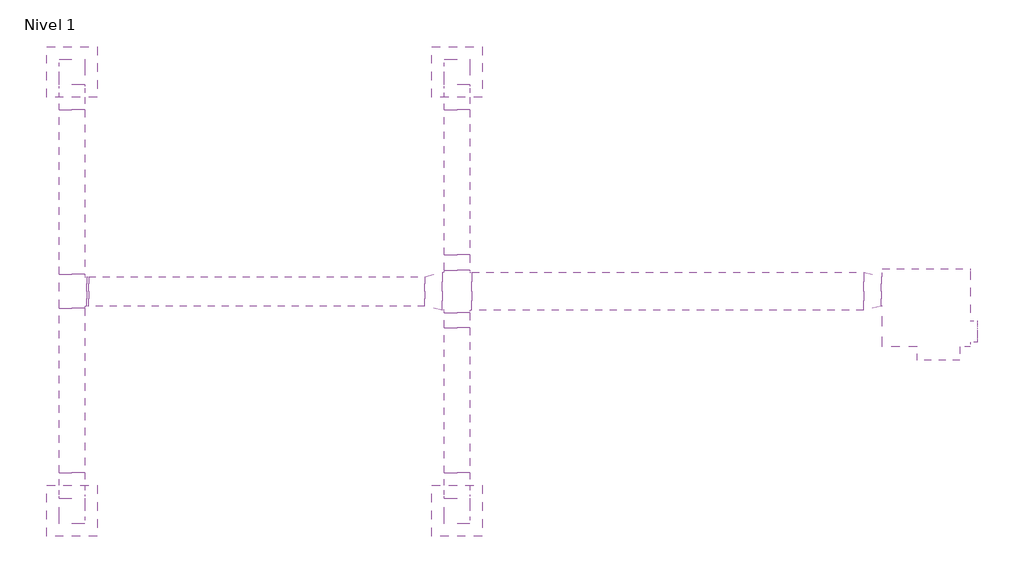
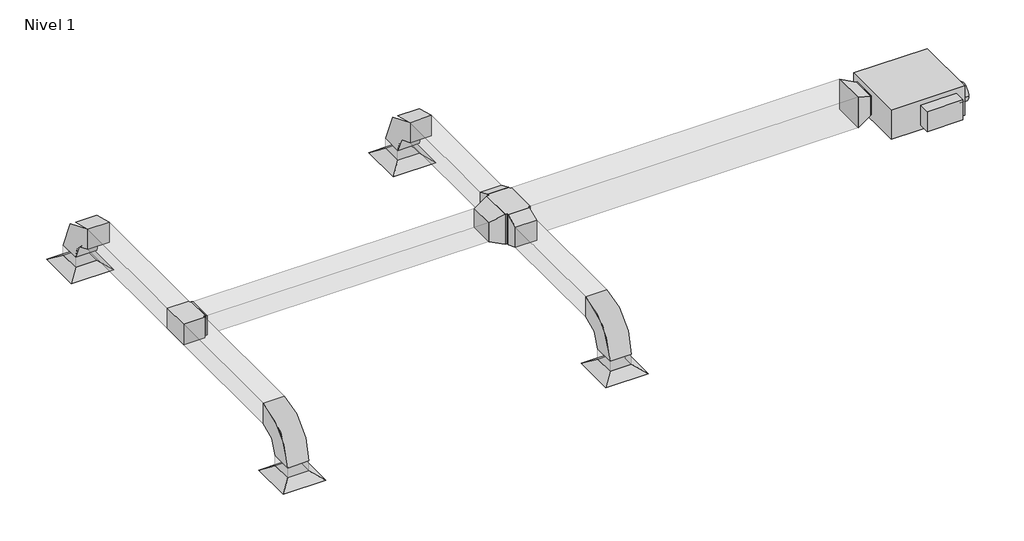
# One storey: 11 duct fittings, 10 duct segments, 4 air terminals, 1 proxy.
"""IFC4 building model written with IfcOpenShell, lengths in millimetres."""

from ifc_helpers import new_model, si_unit, frame, origin, place, context, project, spatial, polyline, outline, extrude, transform, mapped, element, save
from components import air_terminal_ff221211, mechanical_equipment_cafec42d, duct_fitting_45_grados_729889f1, duct_fitting_45_grados_29309759, duct_fitting_45_grados_e99a464d, duct_fitting_45_grados_6865c656, duct_fitting_45_grados_7da8009e, m_codo_rectangular_radio_1_5_w_7230ff9a, norma_aa79a1d3, norma_ee759ac8

model = new_model("IFC4")

# Units and contexts
model_context = context("Model", 3, world=origin())
ifc_project = project(units=[si_unit("LENGTHUNIT", "METRE", prefix="MILLI")], contexts=[model_context])

# Site, building, storey
site = spatial("IfcSite", under=ifc_project)
building = spatial("IfcBuilding", under=site)
storey = spatial("IfcBuildingStorey", under=building, Name="Nivel 1", Elevation=0.0)

# Air terminals
placement = place(None, origin())
air_terminal_shape = air_terminal_ff221211(model_context)
element("IfcAirTerminal", 1, ObjectType="M_Difusor de suministro : Cara 600 x 600 Conexión 300 x 300", at=placement, inside=storey, context=model_context, shape_type="MappedRepresentation", body=[
    mapped(air_terminal_shape, transform((-7560.60312, 5815.7791002, 3000.0), x_axis=(1.0, 0.0, 0.0), y_axis=(0.0, 1.0, 0.0), z_axis=(0.0, 0.0, 1.0))),
])
element("IfcAirTerminal", 2, ObjectType="M_Difusor de suministro : Cara 600 x 600 Conexión 300 x 300", at=placement, inside=storey, context=model_context, shape_type="MappedRepresentation", body=[
    mapped(air_terminal_shape, transform((-7560.60312, 628.1257362, 3000.0), x_axis=(1.0, 0.0, 0.0), y_axis=(0.0, 1.0, 0.0), z_axis=(0.0, 0.0, 1.0))),
])
element("IfcAirTerminal", 3, ObjectType="M_Difusor de suministro : Cara 600 x 600 Conexión 300 x 300", at=placement, inside=storey, context=model_context, shape_type="MappedRepresentation", body=[
    mapped(air_terminal_shape, transform((-3009.171395, 628.1257362, 3000.0), x_axis=(1.0, 0.0, 0.0), y_axis=(0.0, 1.0, 0.0), z_axis=(0.0, 0.0, 1.0))),
])
element("IfcAirTerminal", 4, ObjectType="M_Difusor de suministro : Cara 600 x 600 Conexión 300 x 300", at=placement, inside=storey, context=model_context, shape_type="MappedRepresentation", body=[
    mapped(air_terminal_shape, transform((-3009.171395, 5815.7791002, 3000.0), x_axis=(1.0, 0.0, 0.0), y_axis=(0.0, 1.0, 0.0), z_axis=(0.0, 0.0, 1.0))),
])

# Proxy
mechanical_equipment_shape = mechanical_equipment_cafec42d(model_context)
element("IfcBuildingElementProxy", 5, Name="M_Unidad VAV - Alimentada por ventilador paralelo : Tamaño 4 - Entrada 250 mm", ObjectType="M_Unidad VAV - Alimentada por ventilador paralelo : Tamaño 4 - Entrada 250 mm", at=placement, inside=storey, context=model_context, shape_type="MappedRepresentation", body=[
    mapped(mechanical_equipment_shape, transform((2536.8845006, 3026.9524182, 3700.0), x_axis=(-1.0, 0.0, 0.0), y_axis=(0.0, -1.0, 0.0), z_axis=(0.0, 0.0, 1.0))),
])

# Duct fittings
duct_fitting_45_grados_shape = duct_fitting_45_grados_729889f1(model_context)
element("IfcDuctFitting", 6, ObjectType="M_Transición rectangular - Ángulo : 45 grados", at=placement, inside=storey, context=model_context, shape_type="MappedRepresentation", body=[
    mapped(duct_fitting_45_grados_shape, transform((-7385.60312, 3221.9524182, 3700.0), x_axis=(1.0, 0.0, 0.0), y_axis=(0.0, 1.0, 0.0), z_axis=(0.0, 0.0, 1.0))),
])
duct_fitting_45_grados_2_shape = duct_fitting_45_grados_29309759(model_context)
element("IfcDuctFitting", 7, ObjectType="M_Transición rectangular - Ángulo : 45 grados", at=placement, inside=storey, context=model_context, shape_type="MappedRepresentation", body=[
    mapped(duct_fitting_45_grados_2_shape, transform((2001.8845006, 3221.9524182, 3700.0), x_axis=(-1.0, 0.0, 0.0), y_axis=(0.0, -1.0, 0.0), z_axis=(0.0, 0.0, 1.0))),
])
duct_fitting_45_grados_3_shape = duct_fitting_45_grados_e99a464d(model_context)
element("IfcDuctFitting", 8, ObjectType="M_Transición rectangular - Ángulo : 45 grados", at=placement, inside=storey, context=model_context, shape_type="MappedRepresentation", body=[
    mapped(duct_fitting_45_grados_3_shape, transform((-3184.171395, 3221.9524182, 3700.0), x_axis=(-1.0, 0.0, 0.0), y_axis=(0.0, -1.0, 0.0), z_axis=(0.0, 0.0, 1.0))),
])
duct_fitting_45_grados_4_shape = duct_fitting_45_grados_6865c656(model_context)
element("IfcDuctFitting", 9, ObjectType="M_Transición rectangular - Ángulo : 45 grados", at=placement, inside=storey, context=model_context, shape_type="MappedRepresentation", body=[
    mapped(duct_fitting_45_grados_4_shape, transform((-3009.171395, 2971.9524182, 3700.0), x_axis=(0.0, -1.0, 0.0), y_axis=(1.0, 0.0, 0.0), z_axis=(0.0, 0.0, 1.0))),
])
duct_fitting_45_grados_5_shape = duct_fitting_45_grados_7da8009e(model_context)
element("IfcDuctFitting", 10, ObjectType="M_Transición rectangular - Ángulo : 45 grados", at=placement, inside=storey, context=model_context, shape_type="MappedRepresentation", body=[
    mapped(duct_fitting_45_grados_5_shape, transform((-3009.171395, 3653.0184354, 3700.0), x_axis=(0.0, -1.0, 0.0), y_axis=(1.0, 0.0, 0.0), z_axis=(0.0, 0.0, 1.0))),
])
m_codo_rectangular_radio_1_5_w_shape = m_codo_rectangular_radio_1_5_w_7230ff9a(model_context)
element("IfcDuctFitting", 11, ObjectType="M_Codo rectangular - Radio : 1.5 W", at=placement, inside=storey, context=model_context, shape_type="MappedRepresentation", body=[
    mapped(m_codo_rectangular_radio_1_5_w_shape, transform((-7560.60312, 5815.7791002, 3700.0), x_axis=(0.0, 0.0, 1.0), y_axis=(0.0, -1.0, 0.0), z_axis=(1.0, 0.0, 0.0))),
])
element("IfcDuctFitting", 12, ObjectType="M_Codo rectangular - Radio : 1.5 W", at=placement, inside=storey, context=model_context, shape_type="MappedRepresentation", body=[
    mapped(m_codo_rectangular_radio_1_5_w_shape, transform((-7560.60312, 628.1257362, 3700.0), x_axis=(0.0, 0.0, 1.0), y_axis=(0.0, 1.0, 0.0), z_axis=(-1.0, 0.0, 0.0))),
])
element("IfcDuctFitting", 13, ObjectType="M_Codo rectangular - Radio : 1.5 W", at=placement, inside=storey, context=model_context, shape_type="MappedRepresentation", body=[
    mapped(m_codo_rectangular_radio_1_5_w_shape, transform((-3009.171395, 628.1257362, 3700.0), x_axis=(0.0, 0.0, 1.0), y_axis=(0.0, 1.0, 0.0), z_axis=(-1.0, 0.0, 0.0))),
])
element("IfcDuctFitting", 14, ObjectType="M_Codo rectangular - Radio : 1.5 W", at=placement, inside=storey, context=model_context, shape_type="MappedRepresentation", body=[
    mapped(m_codo_rectangular_radio_1_5_w_shape, transform((-3009.171395, 5815.7791002, 3700.0), x_axis=(0.0, 0.0, 1.0), y_axis=(0.0, -1.0, 0.0), z_axis=(1.0, 0.0, 0.0))),
])
norma_shape = norma_aa79a1d3(model_context)
element("IfcDuctFitting", 15, ObjectType="M_Te rectangular : Norma", at=placement, inside=storey, context=model_context, shape_type="MappedRepresentation", body=[
    mapped(norma_shape, transform((-7560.60312, 3221.9524182, 3700.0), x_axis=(0.0, 1.0, 0.0), y_axis=(-1.0, 0.0, 0.0), z_axis=(0.0, 0.0, 1.0))),
])
norma_2_shape = norma_ee759ac8(model_context)
element("IfcDuctFitting", 16, ObjectType="M_Cruz rectangular : Norma", at=placement, inside=storey, context=model_context, shape_type="MappedRepresentation", body=[
    mapped(norma_2_shape, transform((-3009.171395, 3221.9524182, 3700.0), x_axis=(-1.0, 0.0, 0.0), y_axis=(0.0, -1.0, 0.0), z_axis=(0.0, 0.0, 1.0))),
])

# Duct segments
element("IfcDuctSegment", 17, ObjectType="Codos / Tes", at=placement, inside=storey, context=model_context, shape_type="SweptSolid", body=[
    extrude(outline(polyline([(-7361.4609843, 3046.9524182), (-7361.4609843, 3396.9524182), (-3389.3795478, 3396.9524182), (-3389.3795478, 3046.9524182), (-7361.4609843, 3046.9524182)])), frame((0.0, 0.0, 3560.0), z_axis=(0.0, 0.0, 1.0), x_axis=(1.0, 0.0, 0.0)), (0.0, 0.0, 1.0), 280.0),
])
element("IfcDuctSegment", 18, ObjectType="Codos / Tes", at=placement, inside=storey, context=model_context, shape_type="SweptSolid", body=[
    extrude(outline(polyline([(-7710.60312, 5365.7791002), (-7410.60312, 5365.7791002), (-7410.60312, 3421.9524182), (-7710.60312, 3421.9524182), (-7710.60312, 5365.7791002)])), frame((0.0, 0.0, 3550.0), z_axis=(0.0, 0.0, 1.0), x_axis=(1.0, 0.0, 0.0)), (0.0, 0.0, 1.0), 300.0),
])
element("IfcDuctSegment", 19, ObjectType="Codos / Tes", at=placement, inside=storey, context=model_context, shape_type="SweptSolid", body=[
    extrude(outline(polyline([(-7410.60312, 5665.7791002), (-7710.60312, 5665.7791002), (-7710.60312, 5965.7791002), (-7410.60312, 5965.7791002), (-7410.60312, 5665.7791002)])), frame((0.0, 0.0, 3101.6), z_axis=(0.0, 0.0, 1.0), x_axis=(1.0, 0.0, 0.0)), (0.0, 0.0, 1.0), 148.4),
])
element("IfcDuctSegment", 20, ObjectType="Codos / Tes", at=placement, inside=storey, context=model_context, shape_type="SweptSolid", body=[
    extrude(outline(polyline([(-3159.171395, 5365.7791002), (-2859.171395, 5365.7791002), (-2859.171395, 3653.0184354), (-3159.171395, 3653.0184354), (-3159.171395, 5365.7791002)])), frame((0.0, 0.0, 3550.0), z_axis=(0.0, 0.0, 1.0), x_axis=(1.0, 0.0, 0.0)), (0.0, 0.0, 1.0), 300.0),
])
element("IfcDuctSegment", 21, ObjectType="Codos / Tes", at=placement, inside=storey, context=model_context, shape_type="SweptSolid", body=[
    extrude(outline(polyline([(-2859.171395, 5665.7791002), (-3159.171395, 5665.7791002), (-3159.171395, 5965.7791002), (-2859.171395, 5965.7791002), (-2859.171395, 5665.7791002)])), frame((0.0, 0.0, 3101.6), z_axis=(0.0, 0.0, 1.0), x_axis=(1.0, 0.0, 0.0)), (0.0, 0.0, 1.0), 148.4),
])
element("IfcDuctSegment", 22, ObjectType="Codos / Tes", at=placement, inside=storey, context=model_context, shape_type="SweptSolid", body=[
    extrude(outline(polyline([(-7410.60312, 1078.1257362), (-7710.60312, 1078.1257362), (-7710.60312, 3021.9524182), (-7410.60312, 3021.9524182), (-7410.60312, 1078.1257362)])), frame((0.0, 0.0, 3550.0), z_axis=(0.0, 0.0, 1.0), x_axis=(1.0, 0.0, 0.0)), (0.0, 0.0, 1.0), 300.0),
])
element("IfcDuctSegment", 23, ObjectType="Codos / Tes", at=placement, inside=storey, context=model_context, shape_type="SweptSolid", body=[
    extrude(outline(polyline([(-7410.60312, 478.1257362), (-7710.60312, 478.1257362), (-7710.60312, 778.1257362), (-7410.60312, 778.1257362), (-7410.60312, 478.1257362)])), frame((0.0, 0.0, 3101.6), z_axis=(0.0, 0.0, 1.0), x_axis=(1.0, 0.0, 0.0)), (0.0, 0.0, 1.0), 148.4),
])
element("IfcDuctSegment", 24, ObjectType="Codos / Tes", at=placement, inside=storey, context=model_context, shape_type="SweptSolid", body=[
    extrude(outline(polyline([(-2859.171395, 1078.1257362), (-3159.171395, 1078.1257362), (-3159.171395, 2790.886401), (-2859.171395, 2790.886401), (-2859.171395, 1078.1257362)])), frame((0.0, 0.0, 3550.0), z_axis=(0.0, 0.0, 1.0), x_axis=(1.0, 0.0, 0.0)), (0.0, 0.0, 1.0), 300.0),
])
element("IfcDuctSegment", 25, ObjectType="Codos / Tes", at=placement, inside=storey, context=model_context, shape_type="SweptSolid", body=[
    extrude(outline(polyline([(-2859.171395, 478.1257362), (-3159.171395, 478.1257362), (-3159.171395, 778.1257362), (-2859.171395, 778.1257362), (-2859.171395, 478.1257362)])), frame((0.0, 0.0, 3101.6), z_axis=(0.0, 0.0, 1.0), x_axis=(1.0, 0.0, 0.0)), (0.0, 0.0, 1.0), 148.4),
])
element("IfcDuctSegment", 26, ObjectType="Codos / Tes", at=placement, inside=storey, context=model_context, shape_type="SweptSolid", body=[
    extrude(outline(polyline([(1796.6763478, 3446.9524182), (1796.6763478, 2996.9524182), (-2834.171395, 2996.9524182), (-2834.171395, 3446.9524182), (1796.6763478, 3446.9524182)])), frame((0.0, 0.0, 3475.0), z_axis=(0.0, 0.0, 1.0), x_axis=(1.0, 0.0, 0.0)), (0.0, 0.0, 1.0), 450.0),
])

save(model, "model.ifc")
